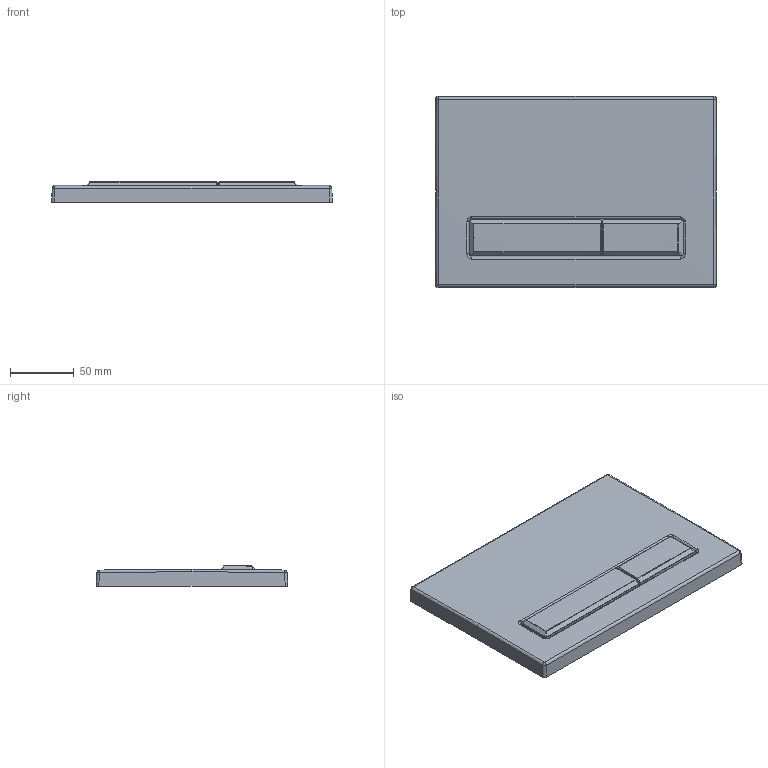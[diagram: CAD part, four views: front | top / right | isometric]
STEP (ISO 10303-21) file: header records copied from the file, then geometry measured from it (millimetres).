
FILE_DESCRIPTION (( 'STEP AP214' ), '1' );
FILE_NAME ('SPP P£YTKA PRZYCISKÓW M08 model.STEP', '2020-02-20T13:06:24', ( '' ), ( '' ), 'SwSTEP 2.0', 'SolidWorks 2017', '' );
FILE_SCHEMA (( 'AUTOMOTIVE_DESIGN' ));
Length unit declared in the file: millimetre
Products named in the file (1): SPP P£YTKA PRZYCISKÓW M08 model
Bounding box: 220 x 150 x 16.18 mm (x, y, z)
Volume: 428643.9 mm3; surface area: 85392.6 mm2
Topology: 1 solids, 3 shells, 134 faces, 315 edges, 190 vertices
Faces by surface type: cylinder 50, plane 45, bspline 17, sphere 16, torus 6
Entity records: 5767 total; most frequent: CARTESIAN_POINT 1496, ORIENTED_EDGE 630, DIRECTION 526, EDGE_CURVE 315, AXIS2_PLACEMENT_3D 196, VERTEX_POINT 190, EDGE_LOOP 137, LINE 134
